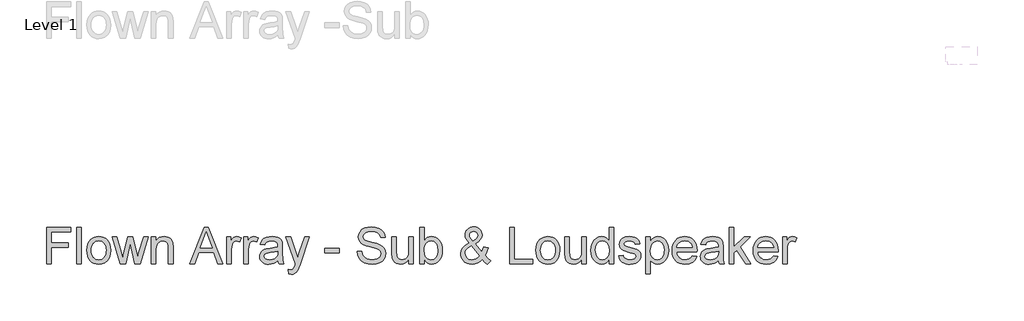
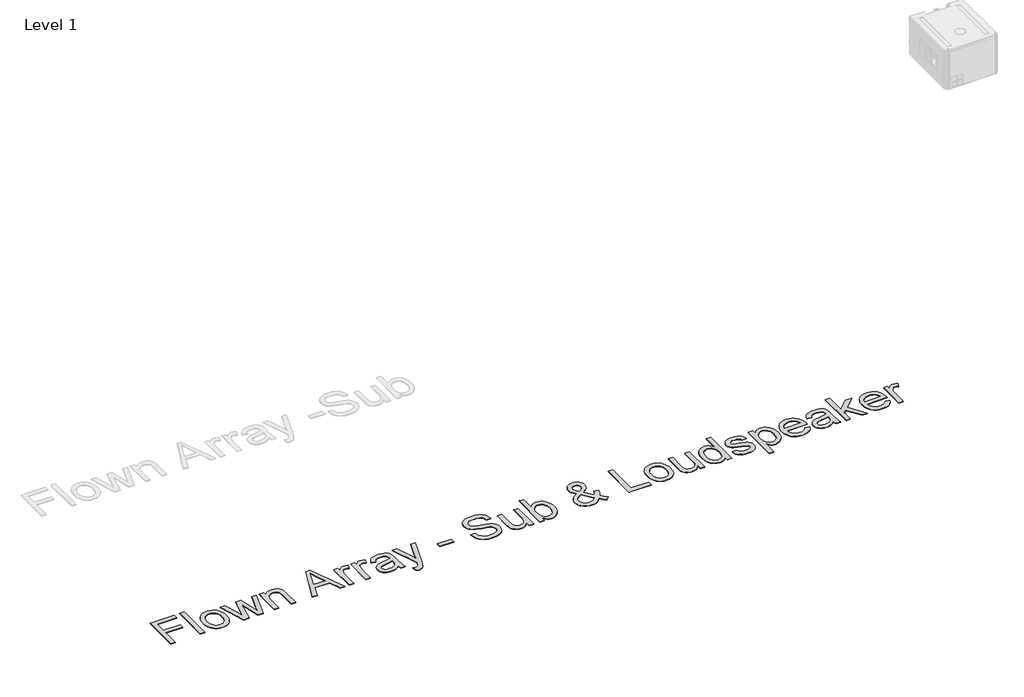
# One storey, part 19 of 31: 1 proxy.
"""IFC4 building model written with IfcOpenShell, lengths in millimetres."""

from ifc_helpers import new_model, si_unit, origin, origin_with_axes, place, context, project, spatial, polyline, outline, extrude, element, save

model = new_model("IFC4")

# Units and contexts
model_context = context("Model", 3, world=origin())
ifc_project = project(units=[si_unit("LENGTHUNIT", "METRE", prefix="MILLI")], contexts=[model_context])

# Site, building, storey
site = spatial("IfcSite", under=ifc_project)
building = spatial("IfcBuilding", under=site)
storey = spatial("IfcBuildingStorey", under=building, Name="Level 1", Elevation=0.0)

# Proxy
placement = place(None, origin())
element("IfcBuildingElementProxy", 1, Name="400mm Arial", ObjectType="400mm Arial", at=placement, inside=storey, context=model_context, shape_type="SweptSolid", body=[
    extrude(outline(polyline([(-20892.4795291, 1663.8227268), (-20892.4795291, 2065.6479674), (-20622.5031956, 2065.6479674), (-20622.5031956, 2015.4198123), (-20842.251374, 2015.4198123), (-20842.251374, 1896.127944), (-20653.8957925, 1896.127944), (-20653.8957925, 1845.899789), (-20842.251374, 1845.899789), (-20842.251374, 1663.8227268), (-20892.4795291, 1663.8227268)])), origin_with_axes(), (0.0, 0.0, 1.0), 5.0),
    extrude(outline(polyline([(-20559.7180017, 1663.8227268), (-20559.7180017, 2065.6479674), (-20509.4898467, 2065.6479674), (-20509.4898467, 1663.8227268), (-20559.7180017, 1663.8227268)])), origin_with_axes(), (0.0, 0.0, 1.0), 5.0),
    extrude(outline(polyline([(-20446.7046528, 1811.3679324), (-20443.9884574, 1849.5847403), (-20435.8398712, 1882.5163102), (-20422.2588942, 1910.1626422), (-20403.2455264, 1932.5237361), (-20384.1034, 1946.8159516), (-20362.9747107, 1957.024677), (-20339.8594587, 1963.1499122), (-20314.7576439, 1965.1916573), (-20287.0469326, 1962.7053881), (-20261.991103, 1955.2465807), (-20239.5901552, 1942.8152349), (-20219.8440891, 1925.4113509), (-20203.727792, 1903.6235397), (-20192.2161513, 1878.0404126), (-20185.3091668, 1848.6619696), (-20183.0068387, 1815.4882107), (-20187.0780661, 1764.7450208), (-20199.2917483, 1726.1174113), (-20219.2922661, 1697.1896238), (-20246.7240002, 1675.5458997), (-20279.3060823, 1662.0446305), (-20314.7576439, 1657.5442074), (-20342.8730254, 1660.0212795), (-20368.1618468, 1667.4524958), (-20390.6241083, 1679.8378563), (-20410.2598098, 1697.177361), (-20426.2044286, 1719.1767044), (-20437.5934421, 1745.5415807), (-20444.4268501, 1776.27199), (-20446.7046528, 1811.3679324)]), holes=[polyline([(-20396.4764977, 1811.4660342), (-20395.0233639, 1787.1030491), (-20390.6639622, 1766.0080823), (-20383.3982928, 1748.181134), (-20373.2263556, 1733.622204), (-20360.8532579, 1722.3128984), (-20346.9841066, 1714.2348229), (-20331.618902, 1709.3879776), (-20314.7576439, 1707.7723625), (-20297.9822249, 1709.3971747), (-20282.6783339, 1714.2716111), (-20268.8459709, 1722.3956718), (-20256.4851358, 1733.7693568), (-20246.3131987, 1748.4723739), (-20239.0475293, 1766.5844308), (-20234.6881276, 1788.1055275), (-20233.2349937, 1813.0356641), (-20234.6973247, 1836.626097), (-20239.0843175, 1857.1692408), (-20246.3959721, 1874.6650953), (-20256.6322886, 1889.1136607), (-20269.0391089, 1900.4229663), (-20282.8622749, 1908.5010418), (-20298.1017865, 1913.3478871), (-20314.7576439, 1914.9635022), (-20331.618902, 1913.3540185), (-20346.9841066, 1908.5255673), (-20360.8532579, 1900.4781486), (-20373.2263556, 1889.2117625), (-20383.3982928, 1874.6957521), (-20390.6639622, 1856.8994606), (-20395.0233639, 1835.822888), (-20396.4764977, 1811.4660342)])]), origin_with_axes(), (0.0, 0.0, 1.0), 5.0),
    extrude(outline(polyline([(-20077.1549259, 1663.8227268), (-20167.3105402, 1958.9131379), (-20115.2184497, 1958.9131379), (-20064.2054797, 1786.7443641), (-20048.9996906, 1725.2344945), (-20036.5407537, 1784.4880212), (-19996.0246833, 1958.9131379), (-19936.3787491, 1958.9131379), (-19895.8626787, 1784.9785306), (-19884.7771679, 1731.3168102), (-19868.8846657, 1787.9215865), (-19817.8716957, 1958.9131379), (-19765.4852996, 1958.9131379), (-19855.9352195, 1663.8227268), (-19916.5621723, 1663.8227268), (-19955.2143073, 1836.8744174), (-19966.3979199, 1890.8304433), (-20016.1355657, 1663.8227268), (-20077.1549259, 1663.8227268)])), origin_with_axes(), (0.0, 0.0, 1.0), 5.0),
    extrude(outline(polyline([(-19730.953443, 1663.8227268), (-19730.953443, 1958.9131379), (-19680.7252879, 1958.9131379), (-19680.7252879, 1917.7103544), (-19663.2754186, 1938.4834244), (-19642.3184076, 1953.3213316), (-19617.8542549, 1962.2240758), (-19589.8829606, 1965.1916573), (-19565.1245023, 1962.8004243), (-19542.4507087, 1955.6267254), (-19523.5415741, 1944.5657401), (-19510.0770931, 1930.5126479), (-19500.9413569, 1913.5042369), (-19495.0184568, 1893.5772955), (-19492.3697064, 1845.0168722), (-19492.3697064, 1663.8227268), (-19542.5978615, 1663.8227268), (-19542.5978615, 1838.2478435), (-19544.044864, 1864.2203123), (-19548.3858715, 1882.6879885), (-19556.3934363, 1895.9194776), (-19568.8401105, 1906.1833852), (-19584.7939263, 1912.768473), (-19603.3229161, 1914.9635022), (-19632.741213, 1910.0338835), (-19657.8185024, 1895.2450273), (-19667.840221, 1883.1723664), (-19674.9985915, 1866.672859), (-19679.2936138, 1845.7465048), (-19680.7252879, 1820.393304), (-19680.7252879, 1663.8227268), (-19730.953443, 1663.8227268)])), origin_with_axes(), (0.0, 0.0, 1.0), 5.0),
    extrude(outline(polyline([(-19306.7609771, 1663.8227268), (-19146.3644272, 2065.6479674), (-19103.5920139, 2065.6479674), (-18943.2935659, 1663.8227268), (-18996.366675, 1663.8227268), (-19042.278348, 1789.3931145), (-19207.8742968, 1789.3931145), (-19253.7859698, 1663.8227268), (-19306.7609771, 1663.8227268)]), holes=[polyline([(-19189.4311461, 1839.6212696), (-19060.6233968, 1839.6212696), (-19096.921087, 1938.409848), (-19125.0763224, 2015.4198123), (-19150.0922981, 1947.0428122), (-19189.4311461, 1839.6212696)])]), origin_with_axes(), (0.0, 0.0, 1.0), 5.0),
    extrude(outline(polyline([(-18895.9103649, 1663.8227268), (-18895.9103649, 1958.9131379), (-18851.9607292, 1958.9131379), (-18851.9607292, 1915.2578078), (-18835.7248705, 1940.5680891), (-18820.764336, 1955.4795726), (-18805.7547506, 1962.7636361), (-18789.3717391, 1965.1916573), (-18764.3557634, 1961.3166336), (-18738.9473803, 1949.6915625), (-18755.7227992, 1904.6628063), (-18773.381135, 1912.3883282), (-18791.0394708, 1914.9635022), (-18806.0367935, 1912.4864301), (-18819.4399608, 1905.0552138), (-18830.2679542, 1893.233939), (-18837.539755, 1877.5866915), (-18843.6465961, 1849.529558), (-18845.6822098, 1818.921776), (-18845.6822098, 1663.8227268), (-18895.9103649, 1663.8227268)])), origin_with_axes(), (0.0, 0.0, 1.0), 5.0),
    extrude(outline(polyline([(-18707.5547833, 1663.8227268), (-18707.5547833, 1958.9131379), (-18663.6051477, 1958.9131379), (-18663.6051477, 1915.2578078), (-18647.3692889, 1940.5680891), (-18632.4087545, 1955.4795726), (-18617.3991691, 1962.7636361), (-18601.0161575, 1965.1916573), (-18576.0001819, 1961.3166336), (-18550.5917987, 1949.6915625), (-18567.3672177, 1904.6628063), (-18585.0255535, 1912.3883282), (-18602.6838893, 1914.9635022), (-18617.6812119, 1912.4864301), (-18631.0843793, 1905.0552138), (-18641.9123727, 1893.233939), (-18649.1841734, 1877.5866915), (-18655.2910146, 1849.529558), (-18657.3266283, 1818.921776), (-18657.3266283, 1663.8227268), (-18707.5547833, 1663.8227268)])), origin_with_axes(), (0.0, 0.0, 1.0), 5.0),
    extrude(outline(polyline([(-18330.8436203, 1701.4938431), (-18354.8417891, 1680.9169769), (-18379.5511964, 1667.4524958), (-18405.535928, 1660.0212795), (-18433.3600696, 1657.5442074), (-18455.7242292, 1659.0341295), (-18475.3354053, 1663.5038958), (-18492.1935977, 1670.9535062), (-18506.2988065, 1681.3829607), (-18517.4364339, 1694.1300719), (-18525.3918821, 1708.532652), (-18530.165151, 1724.5907011), (-18531.7562406, 1742.3042191), (-18529.3527449, 1763.1263401), (-18522.1422578, 1782.0354746), (-18511.0199588, 1798.2222824), (-18496.8810274, 1810.877423), (-18480.265024, 1820.4423549), (-18461.7115087, 1827.3585364), (-18418.2523823, 1834.91238), (-18366.8960558, 1842.8586311), (-18331.1379259, 1852.1783084), (-18330.8436203, 1863.361921), (-18334.301711, 1885.7781972), (-18344.6759833, 1900.4444261), (-18367.8770745, 1911.3337332), (-18400.2016391, 1914.9635022), (-18430.122708, 1912.5477438), (-18451.0184054, 1905.3004685), (-18465.2677013, 1891.8973011), (-18475.2495661, 1871.0138665), (-18525.4777212, 1877.2923859), (-18516.7589179, 1904.7609082), (-18503.748158, 1926.3433186), (-18485.2314309, 1942.8489574), (-18459.9947261, 1955.0871651), (-18429.1294267, 1962.6655342), (-18393.726916, 1965.1916573), (-18359.7714078, 1962.9598398), (-18332.8547085, 1956.2643875), (-18312.5598851, 1946.1966836), (-18298.4700047, 1933.8481113), (-18289.125802, 1918.5810085), (-18283.0680118, 1899.7577131), (-18280.6154652, 1855.8080774), (-18280.6154652, 1793.3171891), (-18278.0648167, 1706.0555799), (-18268.0584264, 1663.8227268), (-18318.2865815, 1663.8227268), (-18326.3309345, 1681.2848589), (-18330.8436203, 1701.4938431)]), holes=[polyline([(-18330.8436203, 1801.9501533), (-18364.590662, 1793.5869693), (-18411.8757611, 1786.5481604), (-18455.0896328, 1778.4057056), (-18466.3345591, 1772.8384247), (-18474.6609549, 1765.1619538), (-18479.8113029, 1755.9649039), (-18481.5280855, 1745.8358863), (-18477.7879519, 1730.8998773), (-18466.567551, 1718.6616696), (-18448.1121376, 1710.4946893), (-18422.6669663, 1707.7723625), (-18395.6889533, 1710.7767321), (-18371.8502, 1719.789841), (-18352.5241325, 1733.070381), (-18339.084177, 1748.8770441), (-18333.1244887, 1765.1619538), (-18331.1379259, 1787.7253828), (-18330.8436203, 1801.9501533)])]), origin_with_axes(), (0.0, 0.0, 1.0), 5.0),
    extrude(outline(polyline([(-18211.551752, 1550.8093779), (-18217.8302714, 1599.1735975), (-18192.3237864, 1594.7590136), (-18178.9083563, 1596.1447024), (-18168.4850331, 1600.301769), (-18153.8678551, 1615.7528128), (-18140.133594, 1652.737216), (-18136.2095194, 1664.9018473), (-18242.9443489, 1958.9131379), (-18190.0674435, 1958.9131379), (-18133.3645653, 1794.9849208), (-18113.6460903, 1729.4528748), (-18093.9276154, 1787.4310772), (-18035.7532092, 1958.9131379), (-17983.2687112, 1958.9131379), (-18085.9813643, 1656.7593925), (-18112.6650717, 1591.2273464), (-18126.3257564, 1570.3071236), (-18141.8013257, 1555.812573), (-18159.7539671, 1547.3512871), (-18180.8458681, 1544.5308585), (-18211.551752, 1550.8093779)])), origin_with_axes(), (0.0, 0.0, 1.0), 5.0),
    extrude(outline(polyline([(-17809.7265114, 1783.1145951), (-17809.7265114, 1833.3427502), (-17652.7635268, 1833.3427502), (-17652.7635268, 1783.1145951), (-17809.7265114, 1783.1145951)])), origin_with_axes(), (0.0, 0.0, 1.0), 5.0),
    extrude(outline(polyline([(-17451.8509065, 1801.9501533), (-17401.6227514, 1801.9501533), (-17395.8592668, 1774.0769608), (-17385.4359436, 1751.6729473), (-17369.1755594, 1733.8919842), (-17345.9008919, 1719.8879429), (-17317.4513509, 1710.8012576), (-17285.6663465, 1707.7723625), (-17257.6827894, 1710.0654936), (-17233.1818485, 1716.9448869), (-17213.3284835, 1727.834194), (-17199.2876541, 1742.1570663), (-17190.9367328, 1758.6013915), (-17188.1530923, 1775.8550571), (-17190.237757, 1792.6672643), (-17196.4917509, 1807.1986031), (-17209.1959425, 1819.5962263), (-17230.6312, 1830.0072868), (-17303.7661407, 1849.1862015), (-17351.7747411, 1861.8781303), (-17382.4928876, 1873.9569225), (-17407.4966006, 1890.8549688), (-17425.21625, 1911.3337332), (-17435.7744633, 1934.9517573), (-17439.2938677, 1961.2675827), (-17434.9405974, 1990.6858795), (-17421.8807866, 2018.1176136), (-17400.4577917, 2041.3677557), (-17371.0149694, 2058.2412766), (-17335.6737724, 2068.5051842), (-17296.5556536, 2071.9264868), (-17254.1756477, 2068.3457687), (-17217.0931426, 2057.6036145), (-17186.6325134, 2039.9207532), (-17164.1181353, 2015.5179142), (-17149.8688394, 1985.9156763), (-17144.2034566, 1952.6346185), (-17194.4316117, 1952.6346185), (-17203.6531871, 1982.6047384), (-17212.0163711, 1994.4628014), (-17222.8811527, 2004.2361997), (-17252.9248489, 2017.3327987), (-17294.5936163, 2021.6983317), (-17337.2434022, 2017.3818497), (-17353.546706, 2011.9862471), (-17366.5022836, 2004.4324034), (-17383.4248554, 1985.3761161), (-17389.0657126, 1962.7391106), (-17385.0680616, 1943.4375686), (-17373.0751086, 1927.9129484), (-17344.7236695, 1914.0315345), (-17291.0619491, 1899.8558149), (-17235.6834461, 1886.3913339), (-17202.1816591, 1874.6436355), (-17173.5481771, 1856.421214), (-17153.5721848, 1833.9313614), (-17141.8367491, 1807.4193323), (-17137.9249373, 1777.1303813), (-17142.4253603, 1746.1669801), (-17155.9266296, 1717.0429888), (-17177.8769219, 1691.9779622), (-17207.7244145, 1673.191455), (-17243.6174345, 1661.4560193), (-17283.7043092, 1657.5442074), (-17332.9146574, 1661.7625876), (-17373.4184651, 1674.4177283), (-17405.6817161, 1695.5586803), (-17430.1703942, 1725.2344945), (-17445.8912182, 1761.3850319), (-17451.8509065, 1801.9501533)])), origin_with_axes(), (0.0, 0.0, 1.0), 5.0),
    extrude(outline(polyline([(-16880.5056425, 1663.8227268), (-16880.5056425, 1714.5413912), (-16898.6790131, 1689.6051233), (-16919.8444905, 1671.7935034), (-16944.0020749, 1661.1065314), (-16971.1517661, 1657.5442074), (-16995.6159188, 1660.045805), (-17018.3878143, 1667.5505977), (-17037.4931526, 1678.8323122), (-17050.9576336, 1692.6646752), (-17060.0197934, 1709.4646197), (-17065.9181681, 1729.6490785), (-17068.861224, 1776.3455664), (-17068.861224, 1958.9131379), (-17018.633069, 1958.9131379), (-17018.633069, 1799.988116), (-17015.5919111, 1748.7789422), (-17008.2710594, 1731.6969549), (-16995.7262834, 1718.7107205), (-16978.7914489, 1710.506952), (-16958.3004217, 1707.7723625), (-16936.6321722, 1710.5682657), (-16916.3618743, 1718.9559752), (-16899.647769, 1732.1629388), (-16888.6480973, 1749.4166044), (-16882.5412562, 1773.0468912), (-16880.5056425, 1805.3837186), (-16880.5056425, 1958.9131379), (-16830.2774874, 1958.9131379), (-16830.2774874, 1663.8227268), (-16880.5056425, 1663.8227268)])), origin_with_axes(), (0.0, 0.0, 1.0), 5.0),
    extrude(outline(polyline([(-16710.9856191, 1663.8227268), (-16761.2137742, 1663.8227268), (-16761.2137742, 2065.6479674), (-16710.9856191, 2065.6479674), (-16710.9856191, 1916.6312339), (-16694.4677175, 1937.8764191), (-16675.8161004, 1953.0515514), (-16655.0307677, 1962.1566308), (-16632.1117194, 1965.1916573), (-16606.2373524, 1962.4570678), (-16581.7854624, 1954.2532993), (-16560.1540011, 1941.0953866), (-16542.74092, 1923.4983645), (-16529.092498, 1901.6339112), (-16518.7550139, 1875.6737051), (-16512.2435026, 1846.6968666), (-16510.0729988, 1815.7825163), (-16512.3201447, 1780.1102255), (-16519.0615822, 1748.7298913), (-16530.2973115, 1721.6415137), (-16546.0273325, 1698.8450928), (-16564.9088759, 1680.7759554), (-16585.5991724, 1667.8694288), (-16608.0982221, 1660.1255128), (-16632.4060249, 1657.5442074), (-16656.0792313, 1660.8735395), (-16677.0668992, 1670.8615357), (-16695.3690284, 1687.5081959), (-16710.9856191, 1710.8135203), (-16710.9856191, 1663.8227268)]), holes=[polyline([(-16710.9856191, 1813.4280715), (-16707.5520538, 1771.538575), (-16697.251358, 1743.1871359), (-16685.0805953, 1727.6931725), (-16670.9355326, 1716.6260559), (-16654.8161698, 1709.9857858), (-16636.722507, 1707.7723625), (-16621.7006589, 1709.403306), (-16607.7334058, 1714.2961366), (-16594.8207478, 1722.4508541), (-16582.9626848, 1733.8674587), (-16573.048265, 1748.5152935), (-16565.9665366, 1766.3637016), (-16561.7174996, 1787.4126831), (-16560.3011539, 1811.6622379), (-16565.7335447, 1857.6229619), (-16572.5240332, 1875.4161877), (-16582.0307171, 1889.7513228), (-16593.4626501, 1900.7816513), (-16606.0288859, 1908.6604573), (-16619.7294245, 1913.387741), (-16634.564266, 1914.9635022), (-16649.5861141, 1913.3325587), (-16663.5533672, 1908.4397281), (-16676.4660252, 1900.2850106), (-16688.3240882, 1888.868406), (-16698.238508, 1874.367724), (-16705.3202364, 1856.9607743), (-16709.5692734, 1836.6475568), (-16710.9856191, 1813.4280715)])]), origin_with_axes(), (0.0, 0.0, 1.0), 5.0),
    extrude(outline(polyline([(-16066.162058, 1713.4622707), (-16091.6930684, 1688.998118), (-16119.4313709, 1671.5237233), (-16149.4260162, 1661.0390864), (-16181.7260554, 1657.5442074), (-16211.0339877, 1660.1316441), (-16237.1536093, 1667.8939542), (-16260.0849204, 1680.8311377), (-16279.8279208, 1698.9431946), (-16292.660871, 1716.3133562), (-16301.8272641, 1734.6767991), (-16307.3270999, 1754.0335234), (-16309.1603785, 1774.3835291), (-16303.2620039, 1809.5775733), (-16285.5668799, 1841.1908994), (-16256.148583, 1869.198982), (-16215.0806896, 1893.5772955), (-16236.9941938, 1921.9287346), (-16250.1521065, 1944.3940618), (-16256.7371942, 1963.5729765), (-16258.9322234, 1982.0651781), (-16257.2031781, 1999.6192807), (-16252.0160419, 2015.9838981), (-16243.3708151, 2031.1590304), (-16231.2674974, 2045.1446776), (-16216.5460862, 2056.8617191), (-16200.0465788, 2065.2310345), (-16181.768975, 2070.2526237), (-16161.7132749, 2071.9264868), (-16142.565017, 2070.3262001), (-16125.2439064, 2065.5253401), (-16109.749943, 2057.5239067), (-16096.0831269, 2046.3218999), (-16084.9240397, 2032.875813), (-16076.9532632, 2018.1421391), (-16072.1707972, 2002.1208782), (-16070.5766419, 1984.8120303), (-16075.2977942, 1956.8284732), (-16089.461251, 1930.9541063), (-16113.0670124, 1907.1889294), (-16146.1150783, 1885.5329426), (-16073.421596, 1794.9849208), (-16061.0362355, 1820.8592878), (-16051.7410838, 1850.6086785), (-16001.5129287, 1839.7193714), (-16016.9639725, 1793.1945618), (-16037.025804, 1757.0194989), (-16008.4781611, 1723.7139156), (-15976.3988512, 1696.1963424), (-16014.0699675, 1657.5442074), (-16039.6990798, 1680.9905533), (-16066.162058, 1713.4622707)]), holes=[polyline([(-16099.8109978, 1749.661859), (-16189.4761028, 1861.5960874), (-16223.7259165, 1839.7438969), (-16244.658402, 1819.5103872), (-16255.3637681, 1800.1843197), (-16258.9322234, 1781.0544559), (-16254.0516556, 1757.3628555), (-16239.4099522, 1732.7883382), (-16228.6310098, 1721.8438488), (-16215.8164536, 1714.0263564), (-16200.9662837, 1709.335861), (-16184.0805002, 1707.7723625), (-16161.3576556, 1710.690893), (-16137.9235725, 1719.4464845), (-16116.5005776, 1732.8373891), (-16099.8109978, 1749.661859)]), polyline([(-16171.5234614, 1917.2198451), (-16145.2566869, 1933.8848995), (-16130.2225761, 1948.3671874), (-16123.1592418, 1962.4570678), (-16120.804797, 1977.9448998), (-16123.9072685, 1995.4928709), (-16133.214683, 2009.4846495), (-16147.181936, 2018.6449112), (-16164.2639234, 2021.6983317), (-16181.7137927, 2018.6694366), (-16195.9998768, 2009.5827514), (-16205.5280205, 1996.1305331), (-16208.7040684, 1980.0050389), (-16204.3875863, 1961.6109392), (-16191.3400382, 1941.1567003), (-16171.5234614, 1917.2198451)])]), origin_with_axes(), (0.0, 0.0, 1.0), 5.0),
    extrude(outline(polyline([(-15762.9291921, 1663.8227268), (-15762.9291921, 2065.6479674), (-15712.701037, 2065.6479674), (-15712.701037, 1714.0508819), (-15511.7884167, 1714.0508819), (-15511.7884167, 1663.8227268), (-15762.9291921, 1663.8227268)])), origin_with_axes(), (0.0, 0.0, 1.0), 5.0),
    extrude(outline(polyline([(-15474.1173004, 1811.3679324), (-15471.401105, 1849.5847403), (-15463.2525188, 1882.5163102), (-15449.6715418, 1910.1626422), (-15430.658174, 1932.5237361), (-15411.5160476, 1946.8159516), (-15390.3873583, 1957.024677), (-15367.2721063, 1963.1499122), (-15342.1702915, 1965.1916573), (-15314.4595802, 1962.7053881), (-15289.4037506, 1955.2465807), (-15267.0028028, 1942.8152349), (-15247.2567367, 1925.4113509), (-15231.1404396, 1903.6235397), (-15219.6287989, 1878.0404126), (-15212.7218144, 1848.6619696), (-15210.4194863, 1815.4882107), (-15214.4907137, 1764.7450208), (-15226.7043959, 1726.1174113), (-15246.7049137, 1697.1896238), (-15274.1366478, 1675.5458997), (-15306.7187299, 1662.0446305), (-15342.1702915, 1657.5442074), (-15370.2856729, 1660.0212795), (-15395.5744944, 1667.4524958), (-15418.0367559, 1679.8378563), (-15437.6724574, 1697.177361), (-15453.6170762, 1719.1767044), (-15465.0060897, 1745.5415807), (-15471.8394977, 1776.27199), (-15474.1173004, 1811.3679324)]), holes=[polyline([(-15423.8891453, 1811.4660342), (-15422.4360114, 1787.1030491), (-15418.0766098, 1766.0080823), (-15410.8109404, 1748.181134), (-15400.6390032, 1733.622204), (-15388.2659055, 1722.3128984), (-15374.3967542, 1714.2348229), (-15359.0315496, 1709.3879776), (-15342.1702915, 1707.7723625), (-15325.3948725, 1709.3971747), (-15310.0909815, 1714.2716111), (-15296.2586185, 1722.3956718), (-15283.8977834, 1733.7693568), (-15273.7258463, 1748.4723739), (-15266.4601769, 1766.5844308), (-15262.1007752, 1788.1055275), (-15260.6476413, 1813.0356641), (-15262.1099723, 1836.626097), (-15266.4969651, 1857.1692408), (-15273.8086197, 1874.6650953), (-15284.0449362, 1889.1136607), (-15296.4517565, 1900.4229663), (-15310.2749225, 1908.5010418), (-15325.5144341, 1913.3478871), (-15342.1702915, 1914.9635022), (-15359.0315496, 1913.3540185), (-15374.3967542, 1908.5255673), (-15388.2659055, 1900.4781486), (-15400.6390032, 1889.2117625), (-15410.8109404, 1874.6957521), (-15418.0766098, 1856.8994606), (-15422.4360114, 1835.822888), (-15423.8891453, 1811.4660342)])]), origin_with_axes(), (0.0, 0.0, 1.0), 5.0),
    extrude(outline(polyline([(-14965.5572303, 1663.8227268), (-14965.5572303, 1714.5413912), (-14983.7306008, 1689.6051233), (-15004.8960783, 1671.7935034), (-15029.0536626, 1661.1065314), (-15056.2033539, 1657.5442074), (-15080.6675066, 1660.045805), (-15103.4394021, 1667.5505977), (-15122.5447403, 1678.8323122), (-15136.0092214, 1692.6646752), (-15145.0713812, 1709.4646197), (-15150.9697558, 1729.6490785), (-15153.9128118, 1776.3455664), (-15153.9128118, 1958.9131379), (-15103.6846567, 1958.9131379), (-15103.6846567, 1799.988116), (-15100.6434989, 1748.7789422), (-15093.3226472, 1731.6969549), (-15080.7778712, 1718.7107205), (-15063.8430366, 1710.506952), (-15043.3520095, 1707.7723625), (-15021.68376, 1710.5682657), (-15001.4134621, 1718.9559752), (-14984.6993568, 1732.1629388), (-14973.6996851, 1749.4166044), (-14967.592844, 1773.0468912), (-14965.5572303, 1805.3837186), (-14965.5572303, 1958.9131379), (-14915.3290752, 1958.9131379), (-14915.3290752, 1663.8227268), (-14965.5572303, 1663.8227268)])), origin_with_axes(), (0.0, 0.0, 1.0), 5.0),
    extrude(outline(polyline([(-14664.1882998, 1663.8227268), (-14664.1882998, 1711.2059278), (-14679.2162793, 1687.7289251), (-14697.4203067, 1670.9596375), (-14718.800382, 1660.898065), (-14743.3565052, 1657.5442074), (-14775.8282226, 1662.4002498), (-14805.5530878, 1676.9683768), (-14830.7162163, 1700.2307816), (-14849.5027235, 1731.1696574), (-14861.201371, 1768.5342054), (-14865.1009201, 1811.0736268), (-14861.5079393, 1853.0857506), (-14850.7289968, 1891.026647), (-14832.7763555, 1922.738075), (-14807.6622779, 1946.0617935), (-14777.2874879, 1960.4091913), (-14743.5527089, 1965.1916573), (-14718.9781916, 1961.7703547), (-14697.2486285, 1951.506447), (-14678.8300032, 1935.7733604), (-14664.1882998, 1915.9445208), (-14664.1882998, 2065.6479674), (-14613.9601447, 2065.6479674), (-14613.9601447, 1663.8227268), (-14664.1882998, 1663.8227268)]), holes=[polyline([(-14814.872765, 1811.2698305), (-14813.4564194, 1786.9129767), (-14809.2073823, 1765.8364041), (-14802.1256539, 1748.0401126), (-14792.2112341, 1733.5241022), (-14767.5140895, 1714.2102974), (-14753.6388069, 1709.3818462), (-14738.7457175, 1707.7723625), (-14723.7821174, 1709.3082698), (-14709.9896082, 1713.9159918), (-14685.917863, 1732.3468798), (-14676.4111791, 1746.2558849), (-14669.6206906, 1763.4083829), (-14664.1882998, 1807.4438577), (-14669.7187925, 1855.5873482), (-14676.6319083, 1874.1224694), (-14686.3102705, 1888.9665079), (-14698.0119836, 1900.3401929), (-14710.9951523, 1908.4642536), (-14725.2597767, 1913.33869), (-14740.8058567, 1914.9635022), (-14755.9932517, 1913.4030694), (-14769.8685343, 1908.721771), (-14782.4317044, 1900.919607), (-14793.6827621, 1889.9965775), (-14802.9533884, 1875.713559), (-14809.5752643, 1857.8314283), (-14814.872765, 1811.2698305)])]), origin_with_axes(), (0.0, 0.0, 1.0), 5.0),
    extrude(outline(polyline([(-14557.4534703, 1751.7219982), (-14507.2253152, 1758.0005176), (-14499.3035896, 1736.5162091), (-14483.9751731, 1720.7218087), (-14461.141964, 1711.0097241), (-14430.7058602, 1707.7723625), (-14400.6376385, 1710.7399439), (-14379.4966865, 1719.6426882), (-14366.9886987, 1732.5430835), (-14362.8193694, 1747.503618), (-14367.0132241, 1760.3059114), (-14379.5947884, 1770.067047), (-14431.2944714, 1784.3899194), (-14506.9310096, 1808.9644367), (-14526.0731361, 1821.313009), (-14539.9422873, 1837.6592323), (-14548.366785, 1856.9607743), (-14551.1749509, 1878.1753027), (-14548.918608, 1897.6362602), (-14542.1495793, 1915.6011643), (-14531.4810014, 1931.3587764), (-14517.5260111, 1944.1978581), (-14485.5938539, 1959.0602907), (-14464.7104193, 1963.6588156), (-14442.3799822, 1965.1916573), (-14409.6875356, 1962.7268479), (-14381.2625201, 1955.3324198), (-14358.4047854, 1943.7318742), (-14342.4141814, 1928.6487124), (-14331.8191799, 1908.9670257), (-14325.1482531, 1883.5709053), (-14375.3764081, 1877.2923859), (-14381.7162412, 1893.0990489), (-14394.2610172, 1905.0061629), (-14413.1333636, 1912.4741674), (-14438.4559076, 1914.9635022), (-14467.297856, 1912.584532), (-14486.5258216, 1905.4476213), (-14497.3415523, 1895.1469254), (-14500.9467958, 1883.2765997), (-14494.962582, 1868.6594217), (-14476.2251258, 1857.5739109), (-14432.9622031, 1846.8808076), (-14359.2386513, 1823.2382581), (-14339.765431, 1811.9320181), (-14325.0011003, 1796.4564488), (-14315.6936858, 1776.7624993), (-14312.5912143, 1752.8011187), (-14316.2332461, 1728.0303977), (-14327.1593413, 1704.7312047), (-14344.9525671, 1684.7306869), (-14369.1959906, 1669.8559915), (-14398.4793974, 1660.6221535), (-14431.3925733, 1657.5442074), (-14458.4257686, 1659.0279981), (-14482.0376613, 1663.4793703), (-14502.2282514, 1670.8983239), (-14518.9975391, 1681.2848589), (-14532.695012, 1694.5899243), (-14543.6701582, 1710.7644694), (-14551.9229776, 1729.808494), (-14557.4534703, 1751.7219982)])), origin_with_axes(), (0.0, 0.0, 1.0), 5.0),
    extrude(outline(polyline([(-14256.0845398, 1550.8093779), (-14256.0845398, 1958.9131379), (-14205.8563848, 1958.9131379), (-14205.8563848, 1909.6660015), (-14189.4733732, 1933.9584759), (-14171.1283244, 1951.3102433), (-14149.7421178, 1961.7213038), (-14124.2356328, 1965.1916573), (-14090.2678619, 1960.3356149), (-14060.5675221, 1945.7674879), (-14036.3854123, 1922.370193), (-14018.9723312, 1891.026647), (-14008.4509062, 1854.0177183), (-14004.9437645, 1813.6242753), (-14008.9046273, 1770.667921), (-14020.7872157, 1732.2487779), (-14040.2113851, 1700.3166207), (-14066.7969906, 1676.821224), (-14097.7603918, 1662.3634616), (-14130.3179484, 1657.5442074), (-14153.408675, 1660.7693063), (-14174.0223294, 1670.4446027), (-14191.6684025, 1685.0495179), (-14205.8563848, 1703.063473), (-14205.8563848, 1550.8093779), (-14256.0845398, 1550.8093779)]), holes=[polyline([(-14205.8563848, 1809.0134876), (-14200.423994, 1763.9847314), (-14193.6335055, 1746.5471248), (-14184.1268216, 1732.4940326), (-14160.0796018, 1713.95278), (-14146.3177495, 1709.3174669), (-14131.3970689, 1707.7723625), (-14116.2617905, 1709.3726492), (-14102.2485522, 1714.1735092), (-14089.3573539, 1722.1749426), (-14077.5881958, 1733.3769494), (-14067.7810749, 1747.938945), (-14060.7759886, 1766.0203451), (-14056.5729368, 1787.6211496), (-14055.1719195, 1812.7413585), (-14060.6410985, 1857.52486), (-14067.4775723, 1875.0973566), (-14077.0486355, 1889.4570172), (-14101.0590671, 1908.5868809), (-14114.6645695, 1913.3693469), (-14129.3369298, 1914.9635022), (-14143.9633048, 1913.2681793), (-14157.7251571, 1908.1822107), (-14182.6552936, 1887.8383364), (-14192.805771, 1872.7398462), (-14200.056112, 1854.5695413), (-14204.4063166, 1833.3274218), (-14205.8563848, 1809.0134876)])]), origin_with_axes(), (0.0, 0.0, 1.0), 5.0),
    extrude(outline(polyline([(-13741.8345615, 1751.7219982), (-13692.5874251, 1745.4434788), (-13700.138203, 1725.7188725), (-13710.3316, 1708.3364482), (-13723.1676159, 1693.296206), (-13738.6462509, 1680.5981458), (-13756.6080893, 1670.5120478), (-13776.8937157, 1663.307692), (-13824.4363322, 1657.5442074), (-13855.6020685, 1660.0304766), (-13883.3710278, 1667.489284), (-13907.74321, 1679.9206298), (-13928.7186151, 1697.3245138), (-13945.5860045, 1719.2165582), (-13957.6341399, 1745.112385), (-13964.8630211, 1775.0119942), (-13967.2726482, 1808.9153857), (-13964.8384956, 1843.9684085), (-13957.536038, 1874.8643647), (-13945.3652753, 1901.6032544), (-13928.3262076, 1924.1850775), (-13907.4059848, 1942.1254562), (-13883.591757, 1954.9400123), (-13856.8835241, 1962.628746), (-13827.2812863, 1965.1916573), (-13798.6324759, 1962.6348774), (-13772.7243864, 1954.9645378), (-13749.5570177, 1942.1806385), (-13729.1303699, 1924.2831794), (-13712.4561185, 1901.7504072), (-13700.5459389, 1875.0605685), (-13693.3998312, 1844.2136632), (-13691.0177952, 1809.2096913), (-13691.3121008, 1795.6716339), (-13917.0444931, 1795.6716339), (-13914.1351596, 1775.6281965), (-13908.3502153, 1758.074094), (-13899.68966, 1743.0093263), (-13888.1534937, 1730.4338934), (-13874.3793787, 1720.5194736), (-13859.004977, 1713.4377452), (-13823.4553135, 1707.7723625), (-13796.7225552, 1710.3965874), (-13774.2081771, 1718.2692621), (-13755.9121792, 1731.8808959), (-13741.8345615, 1751.7219982)]), holes=[polyline([(-13917.0444931, 1845.899789), (-13741.2459503, 1845.899789), (-13748.0395045, 1872.4363436), (-13761.3568327, 1891.4190545), (-13775.0543057, 1901.7197504), (-13790.6402395, 1909.0773903), (-13808.1146343, 1913.4919742), (-13827.47749, 1914.9635022), (-13861.3348963, 1910.2668754), (-13889.3307161, 1896.176995), (-13908.7916737, 1874.2144399), (-13917.0444931, 1845.899789)])]), origin_with_axes(), (0.0, 0.0, 1.0), 5.0),
    extrude(outline(polyline([(-13452.4340586, 1701.4938431), (-13476.4322275, 1680.9169769), (-13501.1416348, 1667.4524958), (-13527.1263664, 1660.0212795), (-13554.950508, 1657.5442074), (-13577.3146676, 1659.0341295), (-13596.9258436, 1663.5038958), (-13613.784036, 1670.9535062), (-13627.8892449, 1681.3829607), (-13639.0268723, 1694.1300719), (-13646.9823204, 1708.532652), (-13651.7555893, 1724.5907011), (-13653.3466789, 1742.3042191), (-13650.9431832, 1763.1263401), (-13643.7326961, 1782.0354746), (-13632.6103971, 1798.2222824), (-13618.4714658, 1810.877423), (-13601.8554623, 1820.4423549), (-13583.3019471, 1827.3585364), (-13539.8428207, 1834.91238), (-13488.4864942, 1842.8586311), (-13452.7283642, 1852.1783084), (-13452.4340586, 1863.361921), (-13455.8921494, 1885.7781972), (-13466.2664217, 1900.4444261), (-13489.4675128, 1911.3337332), (-13521.7920775, 1914.9635022), (-13551.7131464, 1912.5477438), (-13572.6088437, 1905.3004685), (-13586.8581397, 1891.8973011), (-13596.8400045, 1871.0138665), (-13647.0681596, 1877.2923859), (-13638.3493563, 1904.7609082), (-13625.3385964, 1926.3433186), (-13606.8218693, 1942.8489574), (-13581.5851644, 1955.0871651), (-13550.719865, 1962.6655342), (-13515.3173544, 1965.1916573), (-13481.3618462, 1962.9598398), (-13454.4451469, 1956.2643875), (-13434.1503235, 1946.1966836), (-13420.0604431, 1933.8481113), (-13410.7162404, 1918.5810085), (-13404.6584502, 1899.7577131), (-13402.2059036, 1855.8080774), (-13402.2059036, 1793.3171891), (-13399.6552551, 1706.0555799), (-13389.6488648, 1663.8227268), (-13439.8770199, 1663.8227268), (-13447.9213728, 1681.2848589), (-13452.4340586, 1701.4938431)]), holes=[polyline([(-13452.4340586, 1801.9501533), (-13486.1811003, 1793.5869693), (-13533.4661994, 1786.5481604), (-13576.6800711, 1778.4057056), (-13587.9249975, 1772.8384247), (-13596.2513933, 1765.1619538), (-13601.4017412, 1755.9649039), (-13603.1185239, 1745.8358863), (-13599.3783902, 1730.8998773), (-13588.1579894, 1718.6616696), (-13569.702576, 1710.4946893), (-13544.2574046, 1707.7723625), (-13517.2793917, 1710.7767321), (-13493.4406384, 1719.789841), (-13474.1145709, 1733.070381), (-13460.6746153, 1748.8770441), (-13454.714927, 1765.1619538), (-13452.7283642, 1787.7253828), (-13452.4340586, 1801.9501533)])]), origin_with_axes(), (0.0, 0.0, 1.0), 5.0),
    extrude(outline(polyline([(-13333.1421903, 1663.8227268), (-13333.1421903, 2065.6479674), (-13282.9140353, 2065.6479674), (-13282.9140353, 1849.7257617), (-13170.2930938, 1958.9131379), (-13100.8369731, 1958.9131379), (-13214.9294426, 1848.3523356), (-13094.5584537, 1663.8227268), (-13153.2233692, 1663.8227268), (-13250.9328272, 1813.4280715), (-13282.9140353, 1782.3297802), (-13282.9140353, 1663.8227268), (-13333.1421903, 1663.8227268)])), origin_with_axes(), (0.0, 0.0, 1.0), 5.0),
    extrude(outline(polyline([(-12844.0062896, 1751.7219982), (-12794.7591531, 1745.4434788), (-12802.3099311, 1725.7188725), (-12812.503328, 1708.3364482), (-12825.339344, 1693.296206), (-12840.8179789, 1680.5981458), (-12858.7798173, 1670.5120478), (-12879.0654437, 1663.307692), (-12926.6080602, 1657.5442074), (-12957.7737966, 1660.0304766), (-12985.5427558, 1667.489284), (-13009.914938, 1679.9206298), (-13030.8903431, 1697.3245138), (-13047.7577326, 1719.2165582), (-13059.8058679, 1745.112385), (-13067.0347491, 1775.0119942), (-13069.4443762, 1808.9153857), (-13067.0102237, 1843.9684085), (-13059.7077661, 1874.8643647), (-13047.5370034, 1901.6032544), (-13030.4979356, 1924.1850775), (-13009.5777128, 1942.1254562), (-12985.763485, 1954.9400123), (-12959.0552522, 1962.628746), (-12929.4530143, 1965.1916573), (-12900.8042039, 1962.6348774), (-12874.8961144, 1954.9645378), (-12851.7287458, 1942.1806385), (-12831.302098, 1924.2831794), (-12814.6278466, 1901.7504072), (-12802.717667, 1875.0605685), (-12795.5715592, 1844.2136632), (-12793.1895233, 1809.2096913), (-12793.4838289, 1795.6716339), (-13019.2162211, 1795.6716339), (-13016.3068877, 1775.6281965), (-13010.5219433, 1758.074094), (-13001.861388, 1743.0093263), (-12990.3252218, 1730.4338934), (-12976.5511067, 1720.5194736), (-12961.176705, 1713.4377452), (-12925.6270415, 1707.7723625), (-12898.8942832, 1710.3965874), (-12876.3799051, 1718.2692621), (-12858.0839072, 1731.8808959), (-12844.0062896, 1751.7219982)]), holes=[polyline([(-13019.2162211, 1845.899789), (-12843.4176784, 1845.899789), (-12850.2112325, 1872.4363436), (-12863.5285608, 1891.4190545), (-12877.2260337, 1901.7197504), (-12892.8119676, 1909.0773903), (-12910.2863623, 1913.4919742), (-12929.649218, 1914.9635022), (-12963.5066243, 1910.2668754), (-12991.5024442, 1896.176995), (-13010.9634017, 1874.2144399), (-13019.2162211, 1845.899789)])]), origin_with_axes(), (0.0, 0.0, 1.0), 5.0),
    extrude(outline(polyline([(-12742.9613682, 1663.8227268), (-12742.9613682, 1958.9131379), (-12699.0117325, 1958.9131379), (-12699.0117325, 1915.2578078), (-12682.7758738, 1940.5680891), (-12667.8153393, 1955.4795726), (-12652.8057539, 1962.7636361), (-12636.4227424, 1965.1916573), (-12611.4067667, 1961.3166336), (-12585.9983836, 1949.6915625), (-12602.7738026, 1904.6628063), (-12620.4321383, 1912.3883282), (-12638.0904741, 1914.9635022), (-12653.0877968, 1912.4864301), (-12666.4909641, 1905.0552138), (-12677.3189575, 1893.233939), (-12684.5907583, 1877.5866915), (-12690.6975994, 1849.529558), (-12692.7332131, 1818.921776), (-12692.7332131, 1663.8227268), (-12742.9613682, 1663.8227268)])), origin_with_axes(), (0.0, 0.0, 1.0), 5.0),
])

save(model, "model.ifc")
